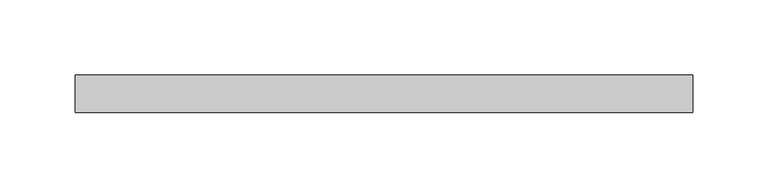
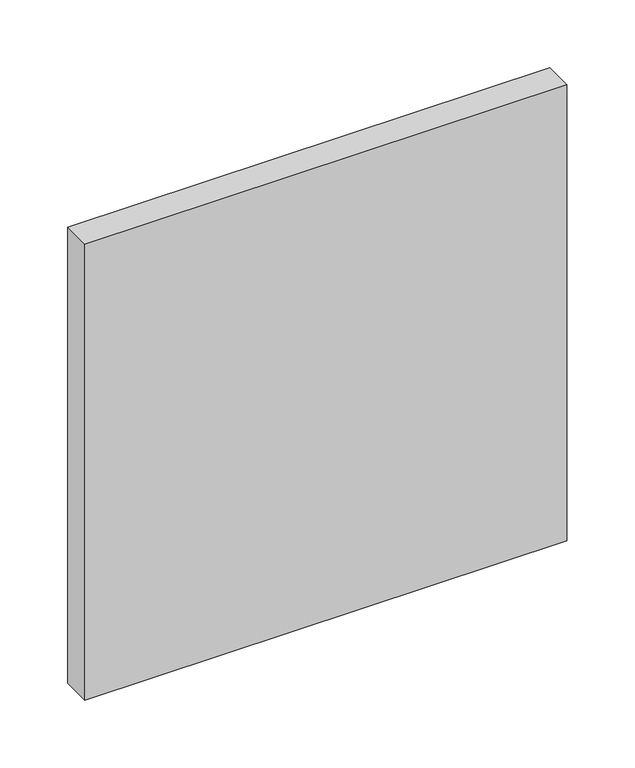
"""IFC4 building model written with IfcOpenShell, lengths in millimetres: plate geometry, 系统嵌板 : 玻璃."""

from ifc_helpers import new_model, si_unit, origin, origin_with_axes, place, context, project, spatial, polyline, outline, extrude, source, transform, mapped, element, save


def plate_ec538d4f(model_context):
    return source(origin(), model_context, "Body", "SweptSolid", [
        extrude(outline(polyline([(205.0, -12.5), (-205.0, -12.5), (-205.0, 12.5), (205.0, 12.5), (205.0, -12.5)])), origin_with_axes(), (0.0, 0.0, 1.0), 410.0),
    ])


if __name__ == "__main__":
    model = new_model("IFC4")
    model_context = context("Model", 3, world=origin())
    ifc_project = project(units=[si_unit("LENGTHUNIT", "METRE", prefix="MILLI")], contexts=[model_context])
    site = spatial("IfcSite", under=ifc_project)
    building = spatial("IfcBuilding", under=site)
    placement = place(None, origin())
    plate_shape = plate_ec538d4f(model_context)
    element("IfcPlate", 1, ObjectType="系统嵌板 : 玻璃", at=placement, inside=building, context=model_context, shape_type="MappedRepresentation", body=[
        mapped(plate_shape, transform((0.0, 0.0, 0.0), x_axis=(1.0, 0.0, 0.0), y_axis=(0.0, 1.0, 0.0), z_axis=(0.0, 0.0, 1.0))),
    ])
    save(model, "model.ifc")
